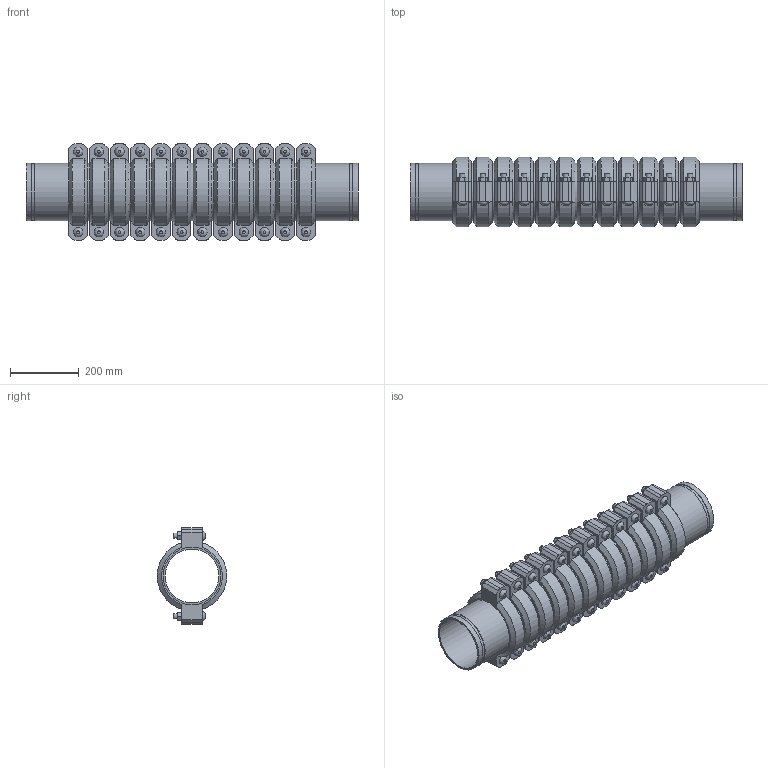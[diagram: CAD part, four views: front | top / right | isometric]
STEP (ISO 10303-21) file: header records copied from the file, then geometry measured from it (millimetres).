
FILE_DESCRIPTION(/* description */ ('VIC SS EXPANSION JOINT 12 COUPLINGS COMPRESSED STYLE 155P (OGS) (POTABLE WATER) ','CAx-IF Rec.Pracs.---Representation and Presentation of Product Manufacturing Information (PMI)---4.0---2014-10-13'),/* implementation_level */ '2;1');
FILE_NAME(/* name */ 'C:\Users\kkamble\AppData\Roaming\Autodesk\ApplicationPlugins\Victaulic.Temp\A528\Victaulic_SS_Expansion Joint_Compressed_12 Couplings_Style 155P (OGS)-Potable Water_12 Coup_Comp_6 (150).stp',/* time_stamp */ '2021-07-16T17:08:21+06:00',/* author */ ('kkamble'),/* organization */ ('Victaulic'),/* preprocessor_version */ 'ST-DEVELOPER v17.2',/* originating_system */ 'Autodesk Inventor 2019',/* authorisation */ '');
FILE_SCHEMA (('AP242_MANAGED_MODEL_BASED_3D_ENGINEERING_MIM_LF { 1 0 10303 442 1 1 4 }'));
Length unit declared in the file: inch
Products named in the file (4): 155P-06.0; Nipple-06.0; Nipple-06.0_1; 075-06.0
Assembly tree (25 placements, depth 2):
  155P-06.0
    Nipple-06.0  x2
    Nipple-06.0_1  x11
    075-06.0  x12
Bounding box: 969.01 x 202.46 x 281.18 mm (x, y, z)
Volume: 11471593.2 mm3; surface area: 2439426 mm2
Topology: 25 solids, 49 shells, 792 faces, 1914 edges, 1344 vertices
Faces by surface type: plane 486, cylinder 234, cone 48, bspline 24
Full cylindrical faces by diameter (mm): 15.875 x48, 17.424 x24, 157.15 x13, 163.957 x26, 168.275 x51
Entity records: 2801 total; most frequent: CARTESIAN_POINT 495, DIRECTION 475, ORIENTED_EDGE 374, AXIS2_PLACEMENT_3D 192, EDGE_CURVE 187, VERTEX_POINT 134, EDGE_LOOP 101, LINE 91
